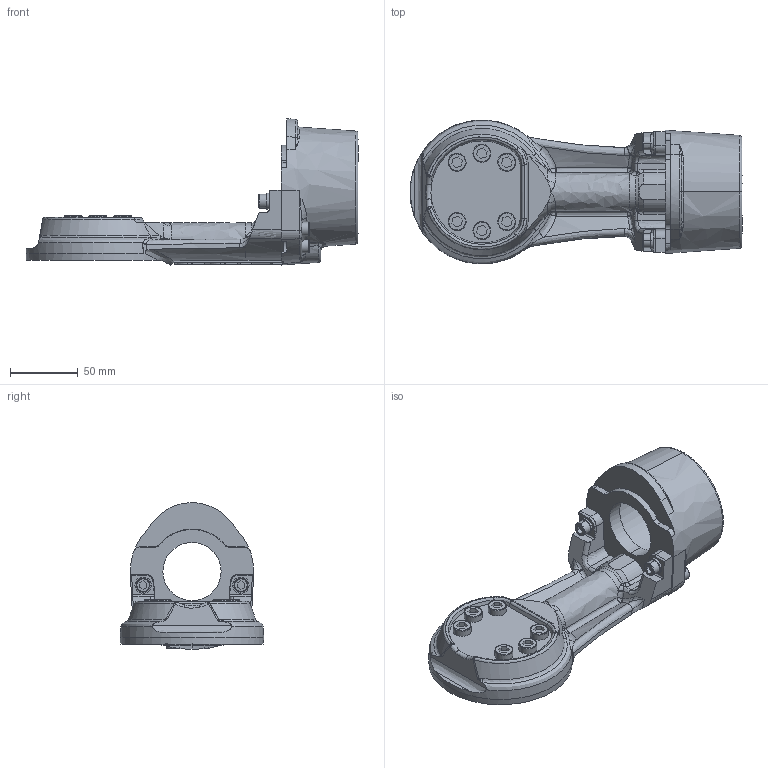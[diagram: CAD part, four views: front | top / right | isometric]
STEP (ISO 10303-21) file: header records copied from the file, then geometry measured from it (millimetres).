
FILE_DESCRIPTION (( 'STEP AP214' ), '1' );
FILE_NAME ('IRB1520ID_4_150__02_link5_step_j.STEP', '2013-04-09T05:05:55', ( 'ABB' ), ( 'ABB' ), 'SwSTEP 2.0', 'SolidWorks 2010', '' );
FILE_SCHEMA (( 'AUTOMOTIVE_DESIGN' ));
Length unit declared in the file: millimetre
Products named in the file (1): IRB1520ID_4_150__02_link5_step_j
Bounding box: 244.5 x 105.79 x 107.85 mm (x, y, z)
Volume: 528023.5 mm3; surface area: 88019.8 mm2
Topology: 2 solids, 2 shells, 481 faces, 1364 edges, 900 vertices
Faces by surface type: bspline 240, plane 208, cylinder 33
Entity records: 67104 total; most frequent: CARTESIAN_POINT 51565, ORIENTED_EDGE 2708, EDGE_CURVE 1354, DIRECTION 1095, VERTEX_POINT 900, B_SPLINE_CURVE_WITH_KNOTS 784, LINE 529, VECTOR 529
